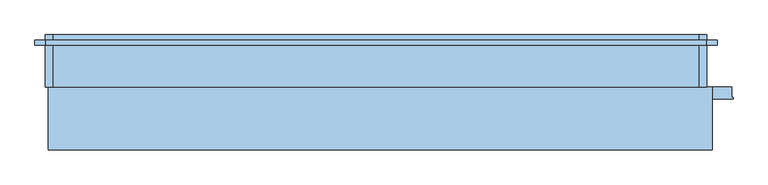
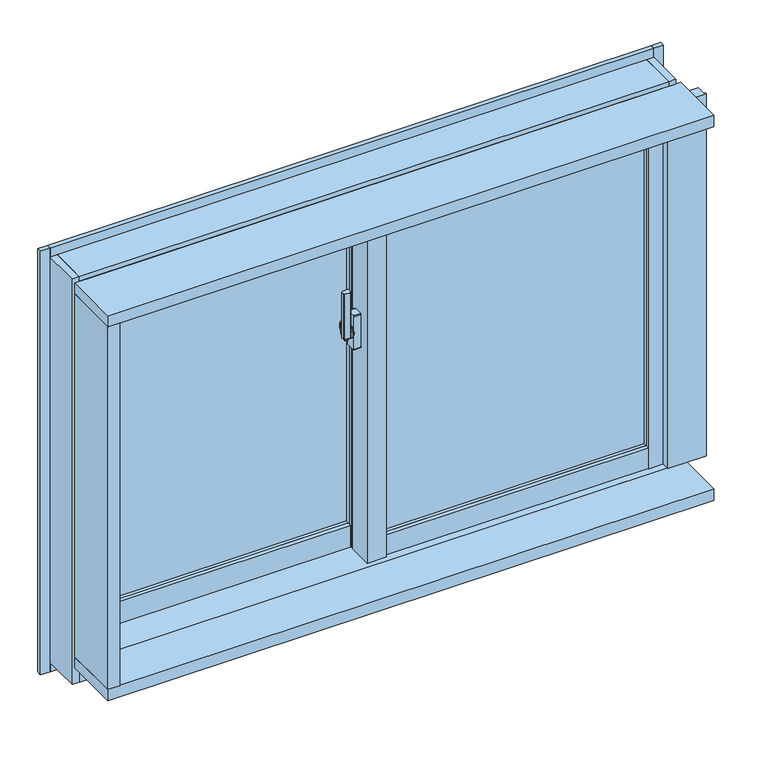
"""IFC4 building model written with IfcOpenShell, lengths in millimetres: window geometry, FNSⅡ100R_非防火_面付枠_単窓 : 引違."""

from ifc_helpers import new_model, si_unit, point, frame, frame_2d, origin, place, context, project, spatial, polyline, circle_curve, trimmed, segment, composite_curve, outline, extrude, faceted_brep, source, transform, mapped, element, save
from ifc_brep_helpers import plane_surface, cylinder_surface, revolved_surface, advanced_brep


def window_6aff7770(model_context):
    return source(origin(), model_context, "Body", "SolidModel", [
        extrude(outline(composite_curve([segment(polyline([(-39.0, 34.6), (-39.0, 26.4)]), True, "CONTINUOUS"), segment(trimmed(circle_curve(frame_2d((-41.0, 26.4)), 2.0), [point((-39.0, 26.4))], [point((-41.3606557, 24.4327869))], False, "CARTESIAN"), True, "CONTINUOUS"), segment(polyline([(-41.3606557, 24.4327869), (-52.3606557, 26.4494536)]), True, "CONTINUOUS"), segment(trimmed(circle_curve(frame_2d((-52.0, 28.4166667)), 2.0), [point((-52.3606557, 26.4494536))], [point((-54.0, 28.4166667))], False, "CARTESIAN"), True, "CONTINUOUS"), segment(polyline([(-54.0, 28.4166667), (-54.0, 32.5833333)]), True, "CONTINUOUS"), segment(trimmed(circle_curve(frame_2d((-52.0, 32.5833333)), 2.0), [point((-54.0, 32.5833333))], [point((-52.3606557, 34.5505464))], False, "CARTESIAN"), True, "CONTINUOUS"), segment(polyline([(-52.3606557, 34.5505464), (-41.3606557, 36.5672131)]), True, "CONTINUOUS"), segment(trimmed(circle_curve(frame_2d((-41.0, 34.6)), 2.0), [point((-41.3606557, 36.5672131))], [point((-39.0, 34.6))], False, "CARTESIAN"), True, "CONTINUOUS")], self_intersect=False)), frame((0.0, 0.0, 1390.0), z_axis=(0.0, 0.0, 1.0), x_axis=(1.0, 0.0, 0.0)), (0.0, 0.0, 1.0), 100.0),
        advanced_brep(
        [(-37.5, 38.8234285, 1421.7333311), (-45.5, 38.8234285, 1421.7333311), (-45.5, 38.4351999, 1420.2844424), (-39.0, 38.4351999, 1420.2844424), (-39.0, 36.6234666, 1413.5229616), (-37.5, 36.6234666, 1413.5229616), (-39.0, 36.6466117, 1379.3190372), (-45.5, 36.6466117, 1379.3190372), (-45.5, 36.907084, 1377.8418256), (-37.5, 36.907084, 1377.8418256), (-37.5, 35.4310745, 1386.2126915), (-39.0, 35.4310745, 1386.2126915)],
        [
            (0, 1),
            (1, 2),
            (2, 3),
            (3, 4),
            (4, 5),
            (5, 0),
            (6, 7),
            (7, 8),
            (8, 9),
            (9, 10),
            (10, 11),
            (11, 6),
            (0, 9, circle_curve(frame((-37.5, 33.0, 1400.0), z_axis=(-1.0, 0.0, 0.0), x_axis=(0.0, 0.25881904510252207, 0.965925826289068)), 22.5)),
            (8, 1, circle_curve(frame((-45.5, 33.0, 1400.0), z_axis=(1.0, 0.0, 0.0), x_axis=(0.0, 0.25881904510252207, 0.965925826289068)), 22.5)),
            (7, 2, circle_curve(frame((-45.5, 33.0, 1400.0), z_axis=(1.0, 0.0, 0.0), x_axis=(0.0, 0.25881904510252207, 0.965925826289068)), 21.0)),
            (6, 3, circle_curve(frame((-39.0, 33.0, 1400.0), z_axis=(1.0, 0.0, 0.0), x_axis=(0.0, 0.25881904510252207, 0.965925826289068)), 21.0)),
            (11, 4, circle_curve(frame((-39.0, 33.0, 1400.0), z_axis=(-1.0, 0.0, 0.0), x_axis=(0.0, -1.0, 0.0)), 14.0)),
            (5, 10, circle_curve(frame((-37.5, 33.0, 1400.0), z_axis=(1.0, 0.0, 0.0), x_axis=(0.0, -1.0, 0.0)), 14.0)),
        ],
        [
            plane_surface(frame((-43.5470497, 33.0, 1400.0), z_axis=(0.0, -0.965925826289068, 0.25881904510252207), x_axis=(0.0, 0.25881904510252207, 0.965925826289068))),
            plane_surface(frame((-43.5470497, 33.0, 1400.0), z_axis=(0.0, -0.9848077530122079, -0.17364817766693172), x_axis=(0.0, 0.17364817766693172, -0.9848077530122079))),
            cylinder_surface(frame((-43.5470497, 33.0, 1400.0), z_axis=(-1.0, 0.0, 0.0), x_axis=(0.0, 0.25881904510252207, 0.965925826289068)), 22.5),
            plane_surface(frame((-45.5, 33.0, 1400.0), z_axis=(-1.0, 0.0, 0.0), x_axis=(0.0, 0.25881904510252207, 0.965925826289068))),
            revolved_surface(polyline([(-45.5, 38.43519994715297, 1420.2844423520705), (-39.0, 38.43519994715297, 1420.2844423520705)]), (-43.5470497, 33.0, 1400.0), (-1.0, 0.0, 0.0)),
            plane_surface(frame((-39.0, 33.0, 1400.0), z_axis=(-1.0, 0.0, 0.0), x_axis=(0.0, 0.25881904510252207, 0.965925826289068))),
            plane_surface(frame((-37.5, 33.0, 1400.0), z_axis=(1.0, 0.0, 0.0), x_axis=(0.0, 0.25881904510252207, 0.965925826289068))),
            cylinder_surface(frame((-37.5, 33.0, 1400.0), z_axis=(-1.0, 0.0, 0.0), x_axis=(0.0, -1.0, 0.0)), 14.0),
        ],
        [
            (0, [[1, 2, 3, 4, 5, 6]]),
            (1, [[7, 8, 9, 10, 11, 12]]),
            (2, [[-1, 13, -9, 14]]),
            (3, [[-2, -14, -8, 15]]),
            (4, [[-3, -15, -7, 16]]),
            (5, [[-16, -12, 17, -4]]),
            (6, [[-13, -6, 18, -10]]),
            (7, [[-17, -11, -18, -5]]),
        ],
    ),
        extrude(outline(composite_curve([segment(trimmed(circle_curve(frame_2d((33.0, 1400.0)), 11.5), [point((44.5, 1400.0))], [point((21.5, 1400.0))], False, "CARTESIAN"), True, "CONTINUOUS"), segment(trimmed(circle_curve(frame_2d((33.0, 1400.0)), 11.5), [point((21.5, 1400.0))], [point((44.5, 1400.0))], False, "CARTESIAN"), True, "CONTINUOUS")], self_intersect=False)), frame((-37.5, 0.0, 0.0), z_axis=(1.0, 0.0, 0.0), x_axis=(0.0, 1.0, 0.0)), (0.0, 0.0, 1.0), 2.5),
        extrude(outline(composite_curve([segment(polyline([(24.0, 1437.5), (42.0, 1437.5)]), True, "CONTINUOUS"), segment(trimmed(circle_curve(frame_2d((42.0, 1435.5)), 2.0), [point((42.0, 1437.5))], [point((44.0, 1435.5))], False, "CARTESIAN"), True, "CONTINUOUS"), segment(polyline([(44.0, 1435.5), (44.0, 1364.5)]), True, "CONTINUOUS"), segment(trimmed(circle_curve(frame_2d((42.0, 1364.5)), 2.0), [point((44.0, 1364.5))], [point((42.0, 1362.5))], False, "CARTESIAN"), True, "CONTINUOUS"), segment(polyline([(42.0, 1362.5), (24.0, 1362.5)]), True, "CONTINUOUS"), segment(trimmed(circle_curve(frame_2d((24.0, 1364.5)), 2.0), [point((24.0, 1362.5))], [point((22.0, 1364.5))], False, "CARTESIAN"), True, "CONTINUOUS"), segment(polyline([(22.0, 1364.5), (22.0, 1435.5)]), True, "CONTINUOUS"), segment(trimmed(circle_curve(frame_2d((24.0, 1435.5)), 2.0), [point((22.0, 1435.5))], [point((24.0, 1437.5))], False, "CARTESIAN"), True, "CONTINUOUS")], self_intersect=False)), frame((-35.0, 0.0, 0.0), z_axis=(1.0, 0.0, 0.0), x_axis=(0.0, 1.0, 0.0)), (0.0, 0.0, 1.0), 15.0),
        extrude(outline(polyline([(20.0, 24.0), (568.0, 24.0), (568.0, 18.0), (20.0, 18.0), (20.0, 24.0)])), frame((0.0, 0.0, 948.0), z_axis=(0.0, 0.0, 1.0), x_axis=(1.0, 0.0, 0.0)), (0.0, 0.0, 1.0), 712.0),
        extrude(outline(polyline([(20.0, 42.0), (568.0, 42.0), (568.0, 36.0), (20.0, 36.0), (20.0, 42.0)])), frame((0.0, 0.0, 948.0), z_axis=(0.0, 0.0, 1.0), x_axis=(1.0, 0.0, 0.0)), (0.0, 0.0, 1.0), 712.0),
        extrude(outline(polyline([(-568.0, 82.0), (-20.0, 82.0), (-20.0, 76.0), (-568.0, 76.0), (-568.0, 82.0)])), frame((0.0, 0.0, 948.0), z_axis=(0.0, 0.0, 1.0), x_axis=(1.0, 0.0, 0.0)), (0.0, 0.0, 1.0), 712.0),
        extrude(outline(polyline([(-568.0, 100.0), (-20.0, 100.0), (-20.0, 94.0), (-568.0, 94.0), (-568.0, 100.0)])), frame((0.0, 0.0, 948.0), z_axis=(0.0, 0.0, 1.0), x_axis=(1.0, 0.0, 0.0)), (0.0, 0.0, 1.0), 712.0),
        faceted_brep([(-589.5, 79.0, 1700.0), (-600.0, 79.0, 1700.0), (-600.0, 79.0, 860.0), (-568.0, 79.0, 860.0), (-568.0, 79.0, 900.0), (-589.5, 79.0, 900.0), (-589.5, 66.0, 1700.0), (-589.5, 66.0, 900.0), (-568.0, 66.0, 1700.0), (-568.0, 66.0, 900.0), (-600.0, 108.0, 1700.0), (-568.0, 108.0, 1700.0), (-568.0, 108.0, 860.0), (-600.0, 108.0, 860.0)], [[[0, 1, 2, 3, 4, 5]], [[6, 0, 5, 7]], [[8, 6, 7, 9]], [[10, 11, 12, 13]], [[2, 1, 10, 13]], [[5, 4, 9, 7]], [[1, 0, 6, 8, 11, 10]], [[3, 2, 13, 12]], [[11, 8, 9, 4, 3, 12]]]),
        faceted_brep([(-1.8, 65.5, 1700.0), (-20.0, 65.5, 1700.0), (-20.0, 65.5, 900.0), (-1.8, 65.5, 900.0), (-1.8, 53.1, 1700.0), (-1.8, 53.1, 900.0), (20.0, 53.1, 1700.0), (20.0, 53.1, 900.0), (-20.0, 108.0, 1700.0), (20.0, 108.0, 1700.0), (20.0, 108.0, 860.0), (-20.0, 108.0, 860.0), (-20.0, 79.0, 900.0), (20.0, 79.0, 900.0), (20.0, 79.0, 860.0), (-20.0, 79.0, 860.0)], [[[0, 1, 2, 3]], [[4, 0, 3, 5]], [[6, 4, 5, 7]], [[8, 9, 10, 11]], [[12, 13, 7, 5, 3, 2]], [[1, 0, 4, 6, 9, 8]], [[11, 10, 14, 15]], [[9, 6, 7, 13, 14, 10]], [[1, 8, 11, 15, 12, 2]], [[13, 12, 15, 14]]]),
        extrude(outline(polyline([(-20.0, 53.1), (-15.0, 53.1), (-15.0, 8.0), (15.0, 8.0), (15.0, 12.0), (20.0, 12.0), (20.0, 0.0), (-20.0, 0.0), (-20.0, 53.1)])), frame((0.0, 0.0, 900.0), z_axis=(0.0, 0.0, 1.0), x_axis=(1.0, 0.0, 0.0)), (0.0, 0.0, 1.0), 800.0),
        extrude(outline(polyline([(-15.0, 53.1), (20.0, 53.1), (20.0, 12.0), (15.0, 12.0), (15.0, 8.0), (-15.0, 8.0), (-15.0, 53.1)])), frame((0.0, 0.0, 900.0), z_axis=(0.0, 0.0, 1.0), x_axis=(1.0, 0.0, 0.0)), (0.0, 0.0, 1.0), 800.0),
        extrude(outline(polyline([(568.0, 0.0), (568.0, 8.0), (589.5, 8.0), (589.5, 21.0), (597.0, 21.0), (597.0, 0.0), (568.0, 0.0)])), frame((0.0, 0.0, 903.0), z_axis=(0.0, 0.0, 1.0), x_axis=(1.0, 0.0, 0.0)), (0.0, 0.0, 1.0), 797.0),
        extrude(outline(polyline([(568.0, 50.0), (600.0, 50.0), (600.0, 21.0), (589.5, 21.0), (589.5, 8.0), (568.0, 8.0), (568.0, 50.0)])), frame((0.0, 0.0, 900.0), z_axis=(0.0, 0.0, 1.0), x_axis=(1.0, 0.0, 0.0)), (0.0, 0.0, 1.0), 800.0),
        extrude(outline(polyline([(-1.85, 65.5), (-1.85, 58.0), (-20.0, 58.0), (-20.0, 65.5), (-1.85, 65.5)])), frame((0.0, 0.0, 900.0), z_axis=(0.0, 0.0, 1.0), x_axis=(1.0, 0.0, 0.0)), (0.0, 0.0, 1.0), 800.0),
        extrude(outline(polyline([(-597.0, 79.0), (-589.5, 79.0), (-589.5, 66.0), (-568.0, 66.0), (-568.0, 58.0), (-597.0, 58.0), (-597.0, 79.0)])), frame((0.0, 0.0, 900.0), z_axis=(0.0, 0.0, 1.0), x_axis=(1.0, 0.0, 0.0)), (0.0, 0.0, 1.0), 800.0),
        extrude(outline(polyline([(2.0, 903.0), (2.0, 948.0), (10.0, 948.0), (10.0, 925.5), (21.0, 925.5), (21.0, 903.0), (2.0, 903.0)])), frame((20.0, 0.0, 0.0), z_axis=(1.0, 0.0, 0.0), x_axis=(0.0, 1.0, 0.0)), (0.0, 0.0, 1.0), 548.0),
        extrude(outline(polyline([(50.0, 900.0), (21.0, 900.0), (21.0, 925.5), (10.0, 925.5), (10.0, 948.0), (50.0, 948.0), (50.0, 900.0)])), frame((20.0, 0.0, 0.0), z_axis=(1.0, 0.0, 0.0), x_axis=(0.0, 1.0, 0.0)), (0.0, 0.0, 1.0), 548.0),
        extrude(outline(polyline([(60.0, 948.0), (68.0, 948.0), (68.0, 925.5), (79.0, 925.5), (79.0, 900.0), (60.0, 900.0), (60.0, 948.0)])), frame((-568.0, 0.0, 0.0), z_axis=(1.0, 0.0, 0.0), x_axis=(0.0, 1.0, 0.0)), (0.0, 0.0, 1.0), 548.0),
        extrude(outline(polyline([(108.0, 860.0), (79.0, 860.0), (79.0, 925.5), (68.0, 925.5), (68.0, 948.0), (108.0, 948.0), (108.0, 860.0)])), frame((-568.0, 0.0, 0.0), z_axis=(1.0, 0.0, 0.0), x_axis=(0.0, 1.0, 0.0)), (0.0, 0.0, 1.0), 548.0),
        extrude(outline(polyline([(23.0, 1680.5), (10.0, 1680.5), (10.0, 1660.0), (2.0, 1660.0), (2.0, 1700.0), (23.0, 1700.0), (23.0, 1680.5)])), frame((20.0, 0.0, 0.0), z_axis=(1.0, 0.0, 0.0), x_axis=(0.0, 1.0, 0.0)), (0.0, 0.0, 1.0), 548.0),
        extrude(outline(polyline([(50.0, 1700.0), (50.0, 1660.0), (10.0, 1660.0), (10.0, 1680.5), (23.0, 1680.5), (23.0, 1700.0), (50.0, 1700.0)])), frame((20.0, 0.0, 0.0), z_axis=(1.0, 0.0, 0.0), x_axis=(0.0, 1.0, 0.0)), (0.0, 0.0, 1.0), 548.0),
        extrude(outline(polyline([(81.0, 1680.5), (68.0, 1680.5), (68.0, 1660.0), (60.0, 1660.0), (60.0, 1700.0), (81.0, 1700.0), (81.0, 1680.5)])), frame((-568.0, 0.0, 0.0), z_axis=(1.0, 0.0, 0.0), x_axis=(0.0, 1.0, 0.0)), (0.0, 0.0, 1.0), 548.0),
        extrude(outline(polyline([(108.0, 1700.0), (108.0, 1660.0), (68.0, 1660.0), (68.0, 1680.5), (81.0, 1680.5), (81.0, 1700.0), (108.0, 1700.0)])), frame((-568.0, 0.0, 0.0), z_axis=(1.0, 0.0, 0.0), x_axis=(0.0, 1.0, 0.0)), (0.0, 0.0, 1.0), 548.0),
        extrude(outline(polyline([(-15.0, 80.3), (-15.0, 31.9), (-600.0, 31.9), (-600.0, 80.3), (-15.0, 80.3)])), frame((0.0, 0.0, 1700.0), z_axis=(0.0, 0.0, 1.0), x_axis=(1.0, 0.0, 0.0)), (0.0, 0.0, 1.0), 25.0),
        faceted_brep([(615.0, 80.3, 1725.0), (615.0, 10.0, 1725.0), (-615.0, 10.0, 1725.0), (-615.0, 80.3, 1725.0), (-15.0, 80.3, 1725.0), (-15.0, 31.9, 1725.0), (600.0, 31.9, 1725.0), (600.0, 80.3, 1725.0), (-615.0, 80.3, 1700.0), (-15.0, 80.3, 1700.0), (615.0, 80.3, 1700.0), (600.0, 80.3, 1700.0), (615.0, 110.0, 1700.0), (600.0, 31.9, 1700.0), (-15.0, 31.9, 1700.0), (-615.0, 110.0, 1700.0), (615.0, 110.0, 1735.0), (-615.0, 110.0, 1735.0), (615.0, 10.0, 1735.0), (-615.0, 10.0, 1735.0)], [[[0, 1, 2, 3, 4, 5, 6, 7]], [[3, 8, 9, 4]], [[10, 0, 7, 11]], [[12, 10, 11, 13, 14, 9, 8, 15]], [[16, 12, 15, 17]], [[18, 16, 17, 19]], [[1, 18, 19, 2]], [[12, 16, 18, 1, 0, 10]], [[15, 8, 3, 2, 19, 17]], [[6, 13, 11, 7]], [[9, 14, 5, 4]], [[13, 6, 5, 14]]]),
        extrude(outline(polyline([(31.9, 1700.0), (-10.0, 1700.0), (-10.0, 1703.0), (10.0, 1703.0), (10.0, 1725.0), (31.9, 1725.0), (31.9, 1700.0)])), frame((-600.0, 0.0, 0.0), z_axis=(1.0, 0.0, 0.0), x_axis=(0.0, 1.0, 0.0)), (0.0, 0.0, 1.0), 1200.0),
        faceted_brep([(600.0, -10.0, 900.0), (603.0, -10.0, 900.0), (603.0, -10.0, 1703.0), (600.0, -10.0, 1703.0), (600.0, 14.5, 1720.0), (615.0, 14.5, 1720.0), (615.0, 14.5, 900.0), (600.0, 14.5, 900.0), (600.0, 10.0, 1703.0), (600.0, 10.0, 1720.0), (603.0, 10.0, 1703.0), (615.0, 10.0, 1720.0), (615.0, 10.0, 900.0), (603.0, 10.0, 900.0)], [[[0, 1, 2, 3]], [[4, 5, 6, 7]], [[7, 0, 3, 8, 9, 4]], [[10, 8, 3, 2]], [[9, 11, 5, 4]], [[0, 7, 6, 12, 13, 1]], [[1, 13, 10, 2]], [[9, 8, 10, 13, 12, 11]], [[5, 11, 12, 6]]]),
        faceted_brep([(-615.0, 76.0, 1720.0), (-600.0, 76.0, 1720.0), (-600.0, 76.0, 900.0), (-615.0, 76.0, 900.0), (-615.0, 10.0, 1720.0), (-600.0, 10.0, 1720.0), (-615.0, 10.0, 900.0), (-600.0, -10.0, 900.0), (-603.0, -10.0, 900.0), (-603.0, 10.0, 900.0), (-603.0, 10.0, 1703.0), (-600.0, 10.0, 1703.0), (-603.0, -10.0, 1703.0), (-600.0, -10.0, 1703.0)], [[[0, 1, 2, 3]], [[4, 5, 1, 0]], [[6, 3, 2, 7, 8, 9]], [[6, 9, 10, 11, 5, 4]], [[9, 8, 12, 10]], [[8, 7, 13, 12]], [[7, 2, 1, 5, 11, 13]], [[6, 4, 0, 3]], [[11, 10, 12, 13]]]),
        faceted_brep([(-630.0, 110.0, 840.0), (-615.0, 110.0, 840.0), (-615.0, 10.0, 840.0), (-630.0, 10.0, 840.0), (-615.0, 10.0, 1735.0), (-630.0, 10.0, 1735.0), (-600.0, 110.0, 849.0), (-600.0, 76.0, 849.0), (-615.0, 76.0, 849.0), (-615.0, 110.0, 849.0), (-600.0, 76.0, 1700.0), (-615.0, 76.0, 1700.0), (-630.0, 110.0, 1735.0), (-615.0, 110.0, 1735.0), (-615.0, 110.0, 1700.0), (-600.0, 110.0, 1700.0)], [[[0, 1, 2, 3]], [[4, 5, 3, 2]], [[6, 7, 8, 9]], [[10, 11, 8, 7]], [[12, 5, 4, 13]], [[5, 12, 0, 3]], [[13, 4, 2, 1, 9, 8, 11, 14]], [[12, 13, 14, 15, 6, 9, 1, 0]], [[15, 14, 11, 10]], [[15, 10, 7, 6]]]),
        faceted_brep([(615.0, 10.0, 840.0), (615.0, 110.0, 840.0), (630.0, 110.0, 840.0), (630.0, 10.0, 840.0), (600.0, 14.5, 849.0), (600.0, 110.0, 849.0), (615.0, 110.0, 849.0), (615.0, 14.5, 849.0), (615.0, 10.0, 1735.0), (615.0, 110.0, 1735.0), (615.0, 110.0, 1700.0), (615.0, 14.5, 1700.0), (630.0, 10.0, 1735.0), (630.0, 110.0, 1735.0), (600.0, 14.5, 1700.0), (600.0, 110.0, 1700.0)], [[[0, 1, 2, 3]], [[4, 5, 6, 7]], [[8, 9, 10, 11, 7, 6, 1, 0]], [[8, 12, 13, 9]], [[11, 14, 4, 7]], [[14, 15, 5, 4]], [[14, 11, 10, 15]], [[12, 8, 0, 3]], [[13, 12, 3, 2]], [[9, 13, 2, 1, 6, 5, 15, 10]]]),
        faceted_brep([(615.0, 76.0, 849.0), (615.0, 110.0, 849.0), (-615.0, 110.0, 849.0), (-615.0, 76.0, 849.0), (615.0, 10.0, 884.0), (615.0, 76.0, 884.0), (-615.0, 76.0, 884.0), (-615.0, 10.0, 884.0), (600.0, 37.25, 884.0), (600.0, 18.8, 884.0), (-15.0, 18.8, 884.0), (-15.0, 37.25, 884.0), (615.0, 110.0, 840.0), (615.0, 10.0, 840.0), (-615.0, 10.0, 840.0), (-615.0, 110.0, 840.0), (600.0, 18.8, 900.0), (600.0, 37.25, 900.0), (-15.0, 18.8, 900.0), (-15.0, 37.25, 900.0)], [[[0, 1, 2, 3]], [[4, 5, 6, 7], [8, 9, 10, 11]], [[5, 0, 3, 6]], [[12, 13, 14, 15]], [[12, 1, 0, 5, 4, 13]], [[15, 14, 7, 6, 3, 2]], [[13, 4, 7, 14]], [[1, 12, 15, 2]], [[16, 9, 8, 17]], [[18, 19, 11, 10]], [[9, 16, 18, 10]], [[17, 8, 11, 19]], [[16, 17, 19, 18]]]),
        faceted_brep([(-603.0, 10.0, 884.0), (-603.0, 10.0, 897.0), (-603.0, -10.0, 897.0), (-603.0, -10.0, 900.0), (-603.0, 18.8, 900.0), (-603.0, 18.8, 884.0), (603.0, 10.0, 897.0), (603.0, -10.0, 897.0), (603.0, -10.0, 900.0), (603.0, 14.5, 900.0), (600.0, 14.5, 900.0), (600.0, 18.8, 900.0), (-15.0, 18.8, 900.0), (-15.0, 76.0, 900.0), (-600.0, 76.0, 900.0), (-600.0, 18.8, 900.0), (-600.0, 18.8, 884.0), (600.0, 18.8, 884.0), (-15.0, 18.8, 884.0), (603.0, 10.0, 884.0), (603.0, 14.5, 884.0), (-600.0, 76.0, 884.0), (-15.0, 76.0, 884.0), (600.0, 14.5, 884.0)], [[[0, 1, 2, 3, 4, 5]], [[6, 7, 2, 1]], [[7, 8, 3, 2]], [[4, 3, 8, 9, 10, 11, 12, 13, 14, 15]], [[5, 4, 15, 16]], [[11, 17, 18, 12]], [[8, 7, 6, 19, 20, 9]], [[19, 6, 1, 0]], [[0, 5, 16, 21, 22, 18, 17, 23, 20, 19]], [[10, 23, 17, 11]], [[23, 10, 9, 20]], [[13, 12, 18, 22]], [[14, 21, 16, 15]], [[13, 22, 21, 14]]]),
        extrude(outline(polyline([(-603.0, 10.0), (-603.0, -10.0), (-600.0, -10.0), (-600.0, -110.0), (-625.0, -110.0), (-625.0, 10.0), (-603.0, 10.0)])), frame((0.0, 0.0, 900.0), z_axis=(0.0, 0.0, 1.0), x_axis=(1.0, 0.0, 0.0)), (0.0, 0.0, 1.0), 800.0),
        extrude(outline(polyline([(-650.0, 90.0), (-650.0, 100.0), (-630.0, 100.0), (-630.0, 90.0), (-650.0, 90.0)])), frame((0.0, 0.0, 820.0), z_axis=(0.0, 0.0, 1.0), x_axis=(1.0, 0.0, 0.0)), (0.0, 0.0, 1.0), 935.0),
        extrude(outline(polyline([(650.0, 90.0), (630.0, 90.0), (630.0, 100.0), (650.0, 100.0), (650.0, 90.0)])), frame((0.0, 0.0, 820.0), z_axis=(0.0, 0.0, 1.0), x_axis=(1.0, 0.0, 0.0)), (0.0, 0.0, 1.0), 935.0),
        extrude(outline(polyline([(603.0, -10.0), (603.0, 10.0), (677.0, 10.0), (677.0, -10.0), (680.0, -10.0), (680.0, -12.5), (600.0, -12.5), (600.0, -10.0), (603.0, -10.0)])), frame((0.0, 0.0, 900.0), z_axis=(0.0, 0.0, 1.0), x_axis=(1.0, 0.0, 0.0)), (0.0, 0.0, 1.0), 800.0),
        extrude(outline(polyline([(-600.0, -110.0), (-625.0, -110.0), (-625.0, 10.0), (-600.0, 10.0), (-600.0, -110.0)])), frame((0.0, 0.0, 900.0), z_axis=(0.0, 0.0, 1.0), x_axis=(1.0, 0.0, 0.0)), (0.0, 0.0, 1.0), 800.0),
        extrude(outline(polyline([(-110.0, 900.0), (-10.0, 900.0), (-10.0, 897.0), (10.0, 897.0), (10.0, 875.0), (-110.0, 875.0), (-110.0, 900.0)])), frame((-625.0, 0.0, 0.0), z_axis=(1.0, 0.0, 0.0), x_axis=(0.0, 1.0, 0.0)), (0.0, 0.0, 1.0), 1265.0),
        extrude(outline(polyline([(-630.0, 90.0), (-630.0, 100.0), (630.0, 100.0), (630.0, 90.0), (-630.0, 90.0)])), frame((0.0, 0.0, 820.0), z_axis=(0.0, 0.0, 1.0), x_axis=(1.0, 0.0, 0.0)), (0.0, 0.0, 1.0), 20.0),
        extrude(outline(polyline([(-110.0, 1725.0), (10.0, 1725.0), (10.0, 1703.0), (-10.0, 1703.0), (-10.0, 1700.0), (-110.0, 1700.0), (-110.0, 1725.0)])), frame((-625.0, 0.0, 0.0), z_axis=(1.0, 0.0, 0.0), x_axis=(0.0, 1.0, 0.0)), (0.0, 0.0, 1.0), 1265.0),
        extrude(outline(polyline([(-630.0, 90.0), (-630.0, 100.0), (630.0, 100.0), (630.0, 90.0), (-630.0, 90.0)])), frame((0.0, 0.0, 1735.0), z_axis=(0.0, 0.0, 1.0), x_axis=(1.0, 0.0, 0.0)), (0.0, 0.0, 1.0), 20.0),
    ])


if __name__ == "__main__":
    model = new_model("IFC4")
    model_context = context("Model", 3, world=origin())
    ifc_project = project(units=[si_unit("LENGTHUNIT", "METRE", prefix="MILLI")], contexts=[model_context])
    site = spatial("IfcSite", under=ifc_project)
    building = spatial("IfcBuilding", under=site)
    placement = place(None, origin())
    window_shape = window_6aff7770(model_context)
    element("IfcWindow", 1, ObjectType="FNSⅡ100R_非防火_面付枠_単窓 : 引違", at=placement, inside=building, context=model_context, shape_type="MappedRepresentation", body=[
        mapped(window_shape, transform((0.0, 0.0, 0.0), x_axis=(1.0, 0.0, 0.0), y_axis=(0.0, 1.0, 0.0), z_axis=(0.0, 0.0, 1.0))),
    ])
    save(model, "model.ifc")
